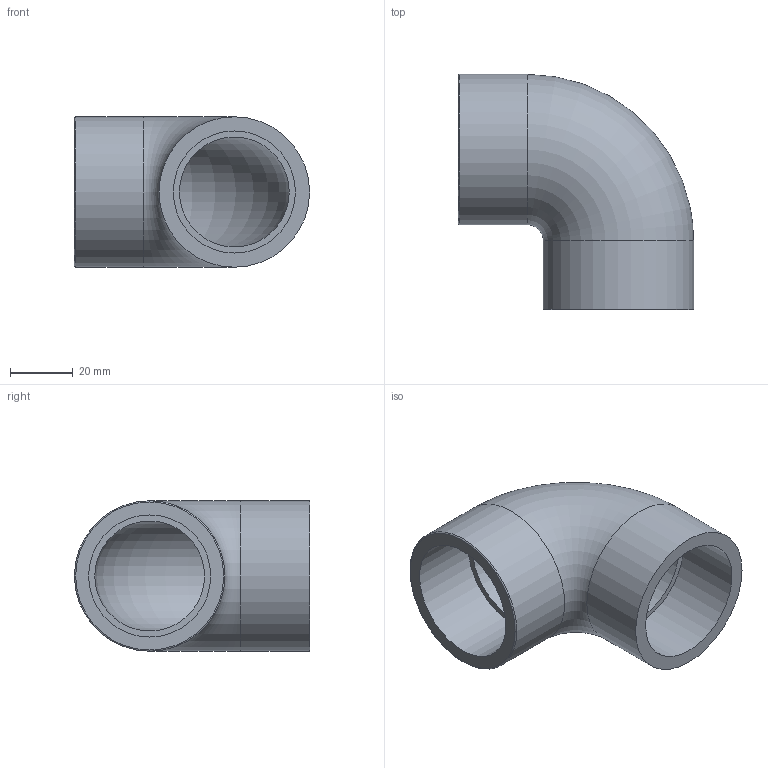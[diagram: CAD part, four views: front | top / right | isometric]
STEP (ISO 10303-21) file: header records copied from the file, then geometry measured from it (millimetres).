
FILE_DESCRIPTION(/* description */ ('PLASSON THREADED 90° ELBOW PVC 1.1/4"'),/* implementation_level */ '2;1');
FILE_NAME(/* name */ 'C:\Dropbox\KIMPROJECTS-Inventor\99-16-3568-Processing\PVC Catalog 2017\050501\050501013.ipt.stp',/* time_stamp */ '2017-12-07T15:55:51+02:00',/* author */ ('KIM'),/* organization */ (''),/* preprocessor_version */ 'ST-DEVELOPER v15.6',/* originating_system */ 'Autodesk Inventor 2015',/* authorisation */ '');
FILE_SCHEMA (('AUTOMOTIVE_DESIGN { 1 0 10303 214 3 1 1 }'));
Length unit declared in the file: millimetre
Products named in the file (1): 050501013
Bounding box: 75 x 75 x 48 mm (x, y, z)
Volume: 65644.3 mm3; surface area: 25568.9 mm2
Topology: 1 solids, 1 shells, 11 faces, 21 edges, 14 vertices
Faces by surface type: cylinder 4, plane 4, torus 3
Full cylindrical faces by diameter (mm): 38.952 x2, 48 x2
Entity records: 252 total; most frequent: DIRECTION 46, CARTESIAN_POINT 34, AXIS2_PLACEMENT_3D 23, EDGE_LOOP 22, ORIENTED_EDGE 22, FACE_BOUND 11, FACE_OUTER_BOUND 11, CIRCLE 11
